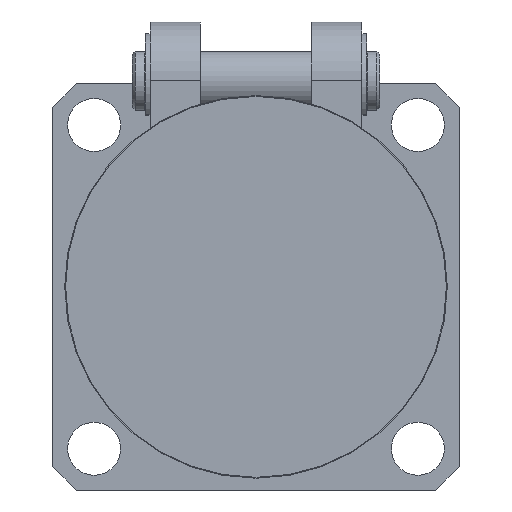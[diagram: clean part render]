
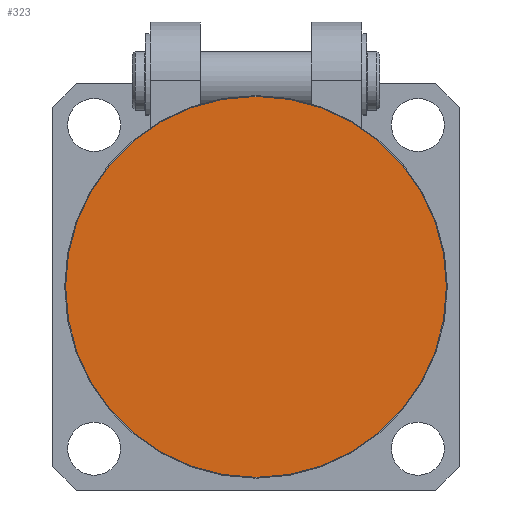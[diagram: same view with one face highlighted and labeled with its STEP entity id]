
A CAD part, front view. The second image highlights one B-rep face of the part: STEP entity #323.
In plain terms, the highlighted planar face has unit normal (0, -1, 0).
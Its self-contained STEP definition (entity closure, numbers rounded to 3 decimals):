
#323 = ADVANCED_FACE( '', ( #652 ), #653, .T. );
#652 = FACE_OUTER_BOUND( '', #1248, .T. );
#653 = PLANE( '', #1249 );
#1248 = EDGE_LOOP( '', ( #2037 ) );
#1249 = AXIS2_PLACEMENT_3D( '', #2038, #2039, #2040 );
#2037 = ORIENTED_EDGE( '', *, *, #3755, .T. );
#2038 = CARTESIAN_POINT( '', ( 0., -63.5, 0. ) );
#2039 = DIRECTION( '', ( 0., -1., 0. ) );
#2040 = DIRECTION( '', ( 1., 0., 0. ) );
#3755 = EDGE_CURVE( '', #4448, #4448, #4449, .T. );
#4448 = VERTEX_POINT( '', #5528 );
#4449 = CIRCLE( '', #5529, 32.35 );
#5528 = CARTESIAN_POINT( '', ( -32.35, -63.5, 0. ) );
#5529 = AXIS2_PLACEMENT_3D( '', #6871, #6872, #6873 );
#6871 = CARTESIAN_POINT( '', ( 0., -63.5, 0. ) );
#6872 = DIRECTION( '', ( 0., -1., 0. ) );
#6873 = DIRECTION( '', ( -1., 0., 0. ) );
